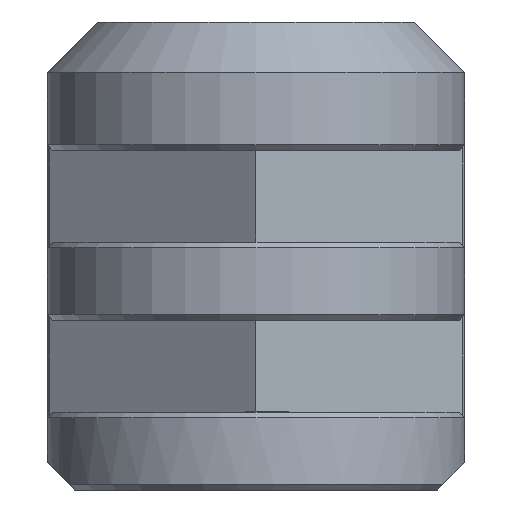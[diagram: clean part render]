
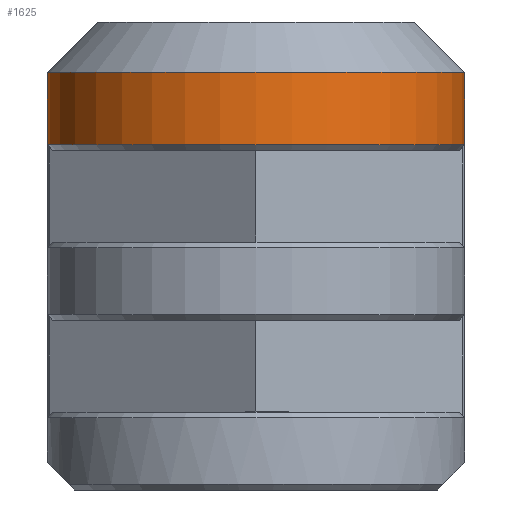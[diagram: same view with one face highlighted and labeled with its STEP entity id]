
A CAD part, left-side view. The second image highlights one B-rep face of the part: STEP entity #1625.
In plain terms, the highlighted cylindrical face has radius 7.5 mm (diameter 15 mm), a partial arc.
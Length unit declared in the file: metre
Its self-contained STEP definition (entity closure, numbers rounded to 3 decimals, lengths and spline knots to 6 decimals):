
#32=ELLIPSE('',#1742,0.010607,0.0075);
#33=ELLIPSE('',#1744,0.010607,0.0075);
#46=CIRCLE('',#1741,0.0075);
#47=CIRCLE('',#1743,0.0075);
#70=CYLINDRICAL_SURFACE('',#1740,0.0075);
#147=ORIENTED_EDGE('',*,*,#587,.T.);
#148=ORIENTED_EDGE('',*,*,#611,.T.);
#149=ORIENTED_EDGE('',*,*,#563,.F.);
#150=ORIENTED_EDGE('',*,*,#612,.T.);
#151=ORIENTED_EDGE('',*,*,#613,.T.);
#152=ORIENTED_EDGE('',*,*,#614,.T.);
#563=EDGE_CURVE('',#797,#798,#948,.T.);
#587=EDGE_CURVE('',#822,#821,#972,.T.);
#611=EDGE_CURVE('',#821,#798,#46,.F.);
#612=EDGE_CURVE('',#797,#841,#32,.F.);
#613=EDGE_CURVE('',#841,#842,#47,.F.);
#614=EDGE_CURVE('',#842,#822,#33,.T.);
#797=VERTEX_POINT('',#2341);
#798=VERTEX_POINT('',#2343);
#821=VERTEX_POINT('',#2390);
#822=VERTEX_POINT('',#2392);
#841=VERTEX_POINT('',#2442);
#842=VERTEX_POINT('',#2444);
#948=LINE('',#2342,#1145);
#972=LINE('',#2391,#1169);
#1145=VECTOR('',#1872,1.);
#1169=VECTOR('',#1898,1.);
#1336=EDGE_LOOP('',(#147,#148,#149,#150,#151,#152));
#1447=FACE_BOUND('',#1336,.T.);
#1625=ADVANCED_FACE('',(#1447),#70,.T.);
#1740=AXIS2_PLACEMENT_3D('',#2439,#1942,#1943);
#1741=AXIS2_PLACEMENT_3D('',#2440,#1944,#1945);
#1742=AXIS2_PLACEMENT_3D('',#2441,#1946,#1947);
#1743=AXIS2_PLACEMENT_3D('',#2443,#1948,#1949);
#1744=AXIS2_PLACEMENT_3D('',#2445,#1950,#1951);
#1872=DIRECTION('',(0.,0.,-1.));
#1898=DIRECTION('',(0.,0.,-1.));
#1942=DIRECTION('',(0.,0.,-1.));
#1943=DIRECTION('',(-1.,0.,0.));
#1944=DIRECTION('',(0.,0.,-1.));
#1945=DIRECTION('',(-1.,0.,0.));
#1946=DIRECTION('',(0.,0.707,-0.707));
#1947=DIRECTION('',(0.,-0.707,-0.707));
#1948=DIRECTION('',(0.,0.,1.));
#1949=DIRECTION('',(1.,0.,0.));
#1950=DIRECTION('',(0.,0.707,0.707));
#1951=DIRECTION('',(0.,0.707,-0.707));
#2341=CARTESIAN_POINT('',(-0.06,-0.0075,0.014));
#2342=CARTESIAN_POINT('',(-0.06,-0.0075,0.015));
#2343=CARTESIAN_POINT('',(-0.06,-0.0075,0.0124));
#2390=CARTESIAN_POINT('',(-0.06,0.0075,0.0124));
#2391=CARTESIAN_POINT('',(-0.06,0.0075,0.015));
#2392=CARTESIAN_POINT('',(-0.06,0.0075,0.014));
#2439=CARTESIAN_POINT('',(-0.06,0.,0.015));
#2440=CARTESIAN_POINT('',(-0.06,0.,0.0124));
#2441=CARTESIAN_POINT('',(-0.06,0.,0.0215));
#2442=CARTESIAN_POINT('',(-0.056258,-0.0065,0.015));
#2443=CARTESIAN_POINT('',(-0.06,0.,0.015));
#2444=CARTESIAN_POINT('',(-0.056258,0.0065,0.015));
#2445=CARTESIAN_POINT('',(-0.06,0.,0.0215));
